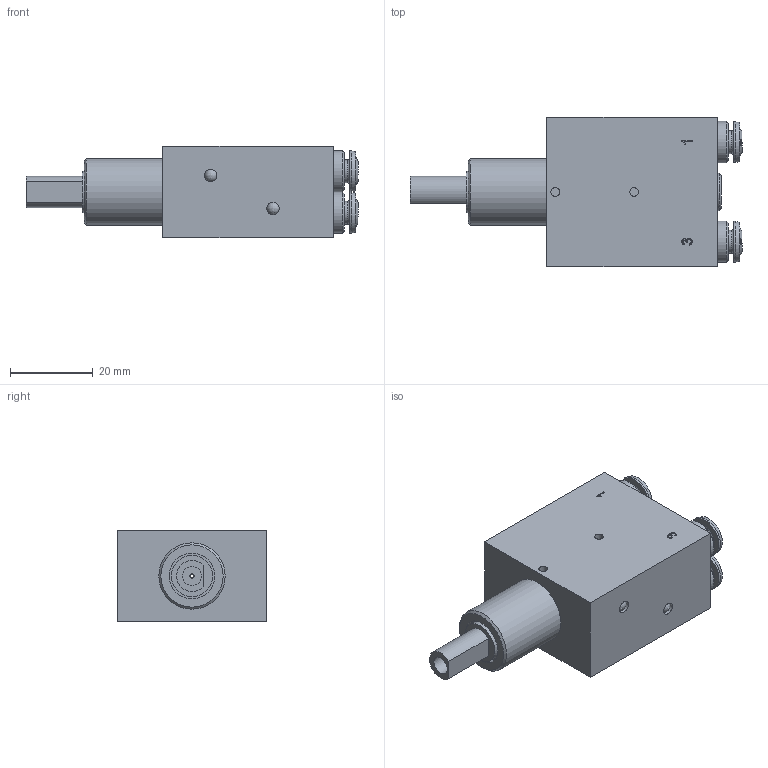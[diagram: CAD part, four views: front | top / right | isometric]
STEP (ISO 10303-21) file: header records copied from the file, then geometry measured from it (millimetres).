
FILE_DESCRIPTION( ( 'Unknown' ), '1' );
FILE_NAME( 'Q:/Solid Edge ST4/weblap modellek/stp/második adag/BHP 520 442.stp', 'Unknown', ( 'Unknown' ), ( 'Unknown' ), 'PSStep 14.0', 'Unknown', ' ' );
FILE_SCHEMA( ( 'AUTOMOTIVE_DESIGN { 1 0 10303 214 1 1 1 1 }' ) );
Length unit declared in the file: millimetre
Products named in the file (16): Assem1; -oa0
Assembly tree (15 placements, depth 2):
  Assem1
    -oa0
    -oa0
    -oa0
    -oa0
    -oa0
    -oa0
    -oa0
    -oa0
    -oa0
    -oa0
    -oa0
    -oa0
    -oa0
    -oa0
    -oa0
Bounding box: 80 x 36 x 22 mm (x, y, z)
Surface area: 10315.5 mm2
Topology: 4 solids, 308 shells, 308 faces, 1529 edges, 1447 vertices
Faces by surface type: plane 101, bspline 100, cone 54, cylinder 33, torus 8, extrusion 8, sphere 4
Full cylindrical faces by diameter (mm): 1 x1, 2.1 x2, 3 x4, 4.1 x4, 4.2 x4, 4.5 x1, 5.5 x4, 9 x1, 9.8 x4, 10 x5, 11 x1, 16 x1
Entity records: 24921 total; most frequent: CARTESIAN_POINT 13177, ORIENTED_EDGE 1381, EDGE_CURVE 1381, VERTEX_POINT 1381, DIRECTION 1068, B_SPLINE_CURVE_WITH_KNOTS 949, PRESENTATION_STYLE_ASSIGNMENT 466, COLOUR_RGB 466
